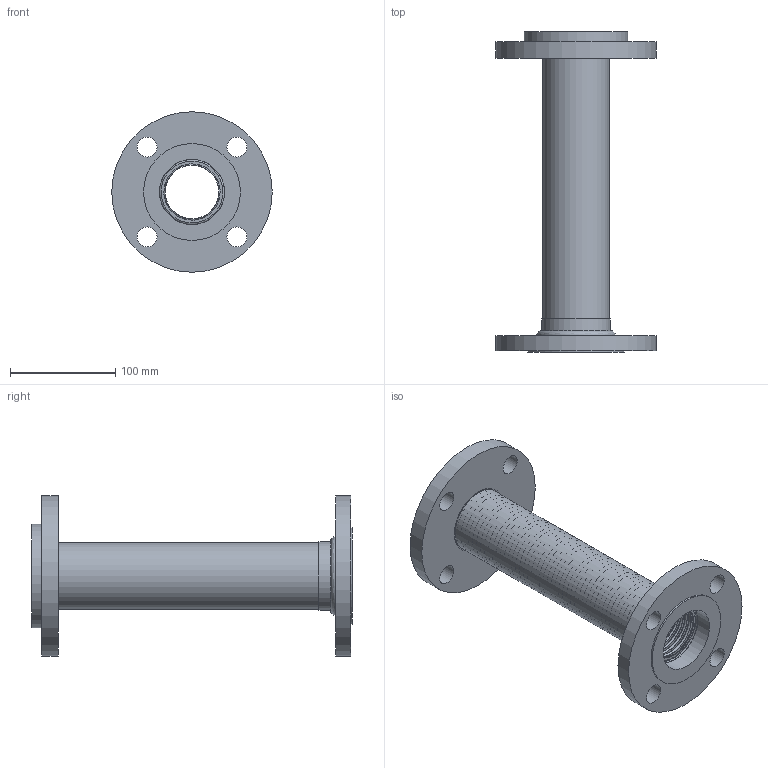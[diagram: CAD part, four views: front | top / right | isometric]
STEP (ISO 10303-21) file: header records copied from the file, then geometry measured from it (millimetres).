
FILE_DESCRIPTION((''),'2;1');
FILE_NAME('C:\2012_Work\Designs\FFLSS\2in_FFLSS_A-30357-3\FFLSS-2x12in.stp','2013-08-26T12:33:58',('KShiels'),(''),'Autodesk Inventor 2012','Autodesk Inventor 2012','');
FILE_SCHEMA(('AUTOMOTIVE_DESIGN { 1 0 10303 214 1 1 1 1 }'));
Length unit declared in the file: inch
Products named in the file (8): FFLSS-2x12in; FFLSS-2x12in_Welds; A-30357-3_2in_FFLSS-BRAID; A-30357-3_2in_FFLSS-BELLOWS; A-30357-3_2in_FFLSS-BRAID-COLLAR; A-30354-2_2in-FIXED-FLANGE; A-30355-1_2in-FLOATING-FLANGE; A-30356-2_2in-WASHER
Assembly tree (8 placements, depth 2):
  FFLSS-2x12in
    FFLSS-2x12in_Welds
    A-30357-3_2in_FFLSS-BRAID
    A-30357-3_2in_FFLSS-BELLOWS
    A-30357-3_2in_FFLSS-BRAID-COLLAR  x2
    A-30354-2_2in-FIXED-FLANGE
    A-30355-1_2in-FLOATING-FLANGE
    A-30356-2_2in-WASHER
Bounding box: 152.4 x 304.8 x 152.4 mm (x, y, z)
Volume: 544630.7 mm3; surface area: 484102.4 mm2
Topology: 9 solids, 9 shells, 469 faces, 732 edges, 492 vertices
Faces by surface type: plane 229, torus 214, cylinder 23, bspline 2, cone 1
Full cylindrical faces by diameter (mm): 19.05 x8, 61.913 x2, 61.976 x1, 62.789 x3, 63.5 x1, 65.17 x4, 92.075 x1, 98.425 x1, 152.4 x2
Entity records: 10310 total; most frequent: CARTESIAN_POINT 2013, DIRECTION 1896, ORIENTED_EDGE 958, AXIS2_PLACEMENT_3D 948, EDGE_LOOP 944, EDGE_CURVE 479, FACE_BOUND 479, VERTEX_POINT 477
